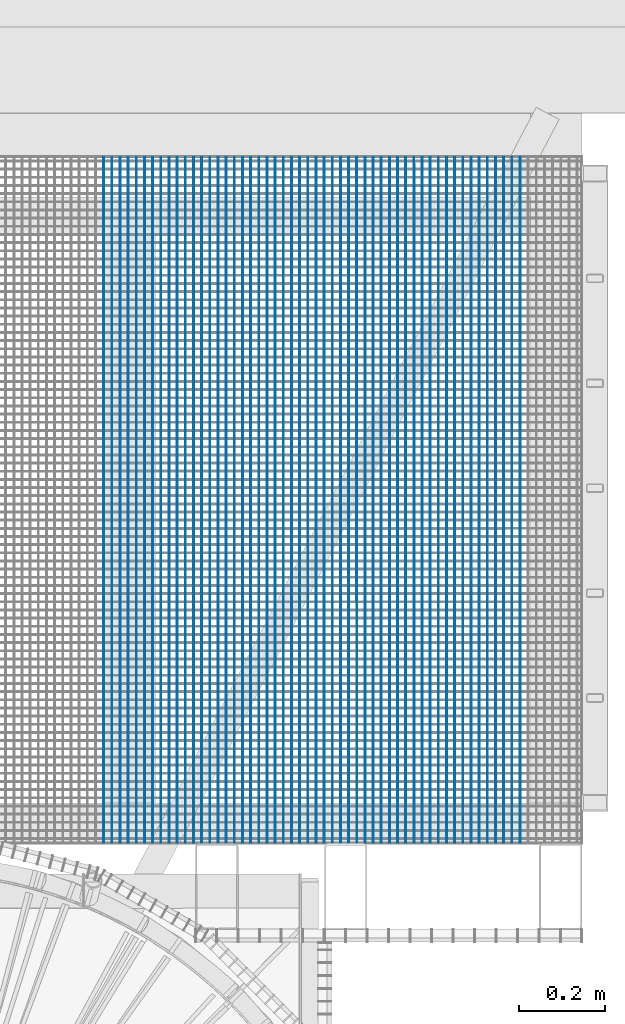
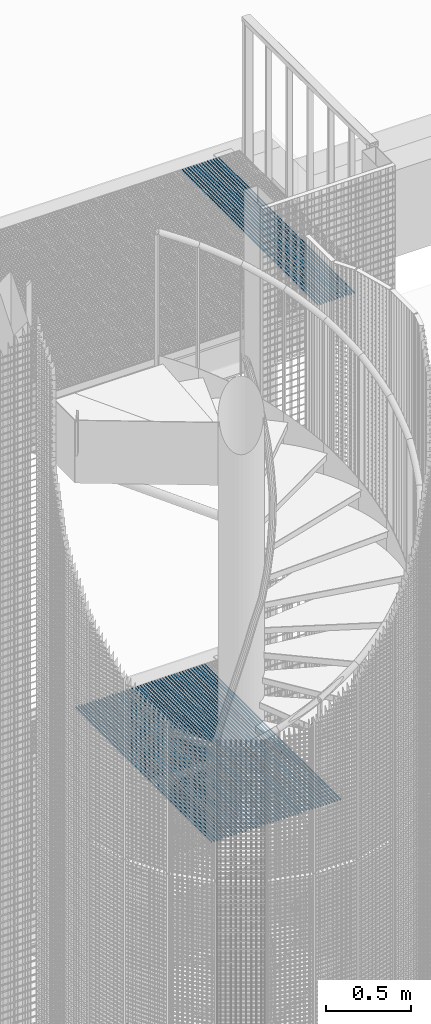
# One storey, part 87 of 1183: 61 beams, 2 elements without a shape of their own.
"""IFC2X3 building model written with IfcOpenShell, lengths in millimetres."""

from ifc_helpers import new_model, si_unit, frame, origin_with_axes, origin_2d_with_axis, place, context, subcontext, project, spatial, rectangle, extrude, material, type_object, element, aggregate, save


model = new_model("IFC2X3")

# Units and contexts
model_context = context("Model", 3, precision=1e-05, world=origin_with_axes())
body_context = subcontext(model_context, "Body", "Model", "MODEL_VIEW")
ifc_project = project(units=[si_unit("LENGTHUNIT", "METRE", prefix="MILLI"), si_unit("AREAUNIT", "SQUARE_METRE"), si_unit("VOLUMEUNIT", "CUBIC_METRE"), si_unit("MASSUNIT", "GRAM", prefix="KILO"), si_unit("TIMEUNIT", "SECOND"), si_unit("PLANEANGLEUNIT", "RADIAN"), si_unit("SOLIDANGLEUNIT", "STERADIAN"), si_unit("THERMODYNAMICTEMPERATUREUNIT", "DEGREE_CELSIUS"), si_unit("LUMINOUSINTENSITYUNIT", "LUMEN")], contexts=[model_context])

# Site, building, storey
site_placement = place(None, origin_with_axes())
site = spatial("IfcSite", under=ifc_project, at=site_placement, Name="Undefined", CompositionType="ELEMENT")
building_placement = place(site_placement, origin_with_axes())
building = spatial("IfcBuilding", under=site, at=building_placement, Name="Undefined", CompositionType="ELEMENT")
storey_placement = place(building_placement, origin_with_axes())
storey = spatial("IfcBuildingStorey", under=building, at=storey_placement, Name="Undefined", CompositionType="ELEMENT", Elevation=0.0)

# Assembly, beams
assembly_1_placement = place(storey_placement, origin_with_axes())
assembly_1 = element("IfcElementAssembly", 1, at=assembly_1_placement, inside=storey, Name="BORDURE", AssemblyPlace="NOTDEFINED", PredefinedType="NOTDEFINED")
ifc_material = material(Name="STEEL/S235JR")
beam_type = type_object("IfcBeamType", Name="PL2*10", PredefinedType="NOTDEFINED")
beam_1_placement = place(assembly_1_placement, frame((1159.07542472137, 1102.00802361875, 17285.0), z_axis=(0.0, 0.0, 1.0), x_axis=(-4.50599999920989e-06, 0.999999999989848, 0.0)))
beam_1 = element("IfcBeam", 2, at=beam_1_placement, type_object=beam_type, material=ifc_material, Name="ENTRETOISE", context=body_context, shape_type="SweptSolid", body=[
    extrude(rectangle(XDim=2.0, YDim=10.0, at=origin_2d_with_axis()), frame((1596.0000000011, -1.35186458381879e-18, -7.27595761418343e-12), z_axis=(-1.0, 0.0, 0.0), x_axis=(0.0, -1.0, 0.0)), (0.0, 0.0, 1.0), 1596.0),
])
beam_2_placement = place(assembly_1_placement, frame((1178.07542472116, 1102.00811713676, 17285.0), z_axis=(0.0, 0.0, 1.0), x_axis=(-4.50599999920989e-06, 0.999999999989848, 0.0)))
beam_2 = element("IfcBeam", 3, at=beam_2_placement, type_object=beam_type, material=ifc_material, Name="ENTRETOISE", context=body_context, shape_type="SweptSolid", body=[
    extrude(rectangle(XDim=2.0, YDim=10.0, at=origin_2d_with_axis()), frame((1596.0000000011, -1.35186458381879e-18, -7.27595761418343e-12), z_axis=(-1.0, 0.0, 0.0), x_axis=(0.0, -1.0, 0.0)), (0.0, 0.0, 1.0), 1596.0),
])
beam_3_placement = place(assembly_1_placement, frame((1197.07542472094, 1102.00821065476, 17285.0), z_axis=(0.0, 0.0, 1.0), x_axis=(-4.50599999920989e-06, 0.999999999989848, 0.0)))
beam_3 = element("IfcBeam", 4, at=beam_3_placement, type_object=beam_type, material=ifc_material, Name="ENTRETOISE", context=body_context, shape_type="SweptSolid", body=[
    extrude(rectangle(XDim=2.0, YDim=10.0, at=origin_2d_with_axis()), frame((1596.0000000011, -1.35186458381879e-18, -7.27595761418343e-12), z_axis=(-1.0, 0.0, 0.0), x_axis=(0.0, -1.0, 0.0)), (0.0, 0.0, 1.0), 1596.0),
])
beam_4_placement = place(assembly_1_placement, frame((1216.07542472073, 1102.00830417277, 17285.0), z_axis=(0.0, 0.0, 1.0), x_axis=(-4.50599999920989e-06, 0.999999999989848, 0.0)))
beam_4 = element("IfcBeam", 5, at=beam_4_placement, type_object=beam_type, material=ifc_material, Name="ENTRETOISE", context=body_context, shape_type="SweptSolid", body=[
    extrude(rectangle(XDim=2.0, YDim=10.0, at=origin_2d_with_axis()), frame((1596.0000000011, -1.35186458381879e-18, -7.27595761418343e-12), z_axis=(-1.0, 0.0, 0.0), x_axis=(0.0, -1.0, 0.0)), (0.0, 0.0, 1.0), 1596.0),
])
beam_5_placement = place(assembly_1_placement, frame((1235.07542472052, 1102.00839769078, 17285.0), z_axis=(0.0, 0.0, 1.0), x_axis=(-4.50599999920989e-06, 0.999999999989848, 0.0)))
beam_5 = element("IfcBeam", 6, at=beam_5_placement, type_object=beam_type, material=ifc_material, Name="ENTRETOISE", context=body_context, shape_type="SweptSolid", body=[
    extrude(rectangle(XDim=2.0, YDim=10.0, at=origin_2d_with_axis()), frame((1596.0000000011, -1.35186458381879e-18, -7.27595761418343e-12), z_axis=(-1.0, 0.0, 0.0), x_axis=(0.0, -1.0, 0.0)), (0.0, 0.0, 1.0), 1596.0),
])
beam_6_placement = place(assembly_1_placement, frame((1254.0754247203, 1102.00849120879, 17285.0), z_axis=(0.0, 0.0, 1.0), x_axis=(-4.50599999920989e-06, 0.999999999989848, 0.0)))
beam_6 = element("IfcBeam", 7, at=beam_6_placement, type_object=beam_type, material=ifc_material, Name="ENTRETOISE", context=body_context, shape_type="SweptSolid", body=[
    extrude(rectangle(XDim=2.0, YDim=10.0, at=origin_2d_with_axis()), frame((1596.0000000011, -1.35186458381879e-18, -7.27595761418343e-12), z_axis=(-1.0, 0.0, 0.0), x_axis=(0.0, -1.0, 0.0)), (0.0, 0.0, 1.0), 1596.0),
])
beam_7_placement = place(assembly_1_placement, frame((1273.07542472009, 1102.0085847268, 17285.0), z_axis=(0.0, 0.0, 1.0), x_axis=(-4.50599999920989e-06, 0.999999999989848, 0.0)))
beam_7 = element("IfcBeam", 8, at=beam_7_placement, type_object=beam_type, material=ifc_material, Name="ENTRETOISE", context=body_context, shape_type="SweptSolid", body=[
    extrude(rectangle(XDim=2.0, YDim=10.0, at=origin_2d_with_axis()), frame((1596.0000000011, -1.35186458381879e-18, -7.27595761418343e-12), z_axis=(-1.0, 0.0, 0.0), x_axis=(0.0, -1.0, 0.0)), (0.0, 0.0, 1.0), 1596.0),
])
beam_8_placement = place(assembly_1_placement, frame((1292.07542471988, 1102.00867824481, 17285.0), z_axis=(0.0, 0.0, 1.0), x_axis=(-4.50599999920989e-06, 0.999999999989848, 0.0)))
beam_8 = element("IfcBeam", 9, at=beam_8_placement, type_object=beam_type, material=ifc_material, Name="ENTRETOISE", context=body_context, shape_type="SweptSolid", body=[
    extrude(rectangle(XDim=2.0, YDim=10.0, at=origin_2d_with_axis()), frame((1596.0000000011, -1.35186458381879e-18, -7.27595761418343e-12), z_axis=(-1.0, 0.0, 0.0), x_axis=(0.0, -1.0, 0.0)), (0.0, 0.0, 1.0), 1596.0),
])
beam_9_placement = place(assembly_1_placement, frame((1311.07542471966, 1102.00877176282, 17285.0), z_axis=(0.0, 0.0, 1.0), x_axis=(-4.50599999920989e-06, 0.999999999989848, 0.0)))
beam_9 = element("IfcBeam", 10, at=beam_9_placement, type_object=beam_type, material=ifc_material, Name="ENTRETOISE", context=body_context, shape_type="SweptSolid", body=[
    extrude(rectangle(XDim=2.0, YDim=10.0, at=origin_2d_with_axis()), frame((1596.0000000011, -1.35186458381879e-18, -7.27595761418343e-12), z_axis=(-1.0, 0.0, 0.0), x_axis=(0.0, -1.0, 0.0)), (0.0, 0.0, 1.0), 1596.0),
])
beam_10_placement = place(assembly_1_placement, frame((1330.07542471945, 1102.00886528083, 17285.0), z_axis=(0.0, 0.0, 1.0), x_axis=(-4.50599999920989e-06, 0.999999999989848, 0.0)))
beam_10 = element("IfcBeam", 11, at=beam_10_placement, type_object=beam_type, material=ifc_material, Name="ENTRETOISE", context=body_context, shape_type="SweptSolid", body=[
    extrude(rectangle(XDim=2.0, YDim=10.0, at=origin_2d_with_axis()), frame((1596.0000000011, -1.35186458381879e-18, -7.27595761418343e-12), z_axis=(-1.0, 0.0, 0.0), x_axis=(0.0, -1.0, 0.0)), (0.0, 0.0, 1.0), 1596.0),
])
beam_11_placement = place(assembly_1_placement, frame((1349.07542471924, 1102.00895879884, 17285.0), z_axis=(0.0, 0.0, 1.0), x_axis=(-4.50599999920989e-06, 0.999999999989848, 0.0)))
beam_11 = element("IfcBeam", 12, at=beam_11_placement, type_object=beam_type, material=ifc_material, Name="ENTRETOISE", context=body_context, shape_type="SweptSolid", body=[
    extrude(rectangle(XDim=2.0, YDim=10.0, at=origin_2d_with_axis()), frame((1596.0000000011, -1.35186458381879e-18, -7.27595761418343e-12), z_axis=(-1.0, 0.0, 0.0), x_axis=(0.0, -1.0, 0.0)), (0.0, 0.0, 1.0), 1596.0),
])
beam_12_placement = place(assembly_1_placement, frame((1368.07542471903, 1102.00905231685, 17285.0), z_axis=(0.0, 0.0, 1.0), x_axis=(-4.50599999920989e-06, 0.999999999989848, 0.0)))
beam_12 = element("IfcBeam", 13, at=beam_12_placement, type_object=beam_type, material=ifc_material, Name="ENTRETOISE", context=body_context, shape_type="SweptSolid", body=[
    extrude(rectangle(XDim=2.0, YDim=10.0, at=origin_2d_with_axis()), frame((1596.0000000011, -1.35186458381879e-18, -7.27595761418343e-12), z_axis=(-1.0, 0.0, 0.0), x_axis=(0.0, -1.0, 0.0)), (0.0, 0.0, 1.0), 1596.0),
])
beam_13_placement = place(assembly_1_placement, frame((1387.07542471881, 1102.00914583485, 17285.0), z_axis=(0.0, 0.0, 1.0), x_axis=(-4.50599999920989e-06, 0.999999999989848, 0.0)))
beam_13 = element("IfcBeam", 14, at=beam_13_placement, type_object=beam_type, material=ifc_material, Name="ENTRETOISE", context=body_context, shape_type="SweptSolid", body=[
    extrude(rectangle(XDim=2.0, YDim=10.0, at=origin_2d_with_axis()), frame((1596.0000000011, -1.35186458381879e-18, -7.27595761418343e-12), z_axis=(-1.0, 0.0, 0.0), x_axis=(0.0, -1.0, 0.0)), (0.0, 0.0, 1.0), 1596.0),
])
beam_14_placement = place(assembly_1_placement, frame((1406.0754247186, 1102.00923935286, 17285.0), z_axis=(0.0, 0.0, 1.0), x_axis=(-4.50599999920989e-06, 0.999999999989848, 0.0)))
beam_14 = element("IfcBeam", 15, at=beam_14_placement, type_object=beam_type, material=ifc_material, Name="ENTRETOISE", context=body_context, shape_type="SweptSolid", body=[
    extrude(rectangle(XDim=2.0, YDim=10.0, at=origin_2d_with_axis()), frame((1596.0000000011, -1.35186458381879e-18, -7.27595761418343e-12), z_axis=(-1.0, 0.0, 0.0), x_axis=(0.0, -1.0, 0.0)), (0.0, 0.0, 1.0), 1596.0),
])
aggregate(assembly_1, [beam_1, beam_2, beam_3, beam_4, beam_5, beam_6, beam_7, beam_8, beam_9, beam_10, beam_11, beam_12, beam_13, beam_14])

assembly_2_placement = place(storey_placement, origin_with_axes())
assembly_2 = element("IfcElementAssembly", 16, at=assembly_2_placement, inside=storey, Name="BORDURE", AssemblyPlace="NOTDEFINED", PredefinedType="NOTDEFINED")
beam_15_placement = place(assembly_2_placement, frame((437.075424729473, 1102.00446993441, 13685.0), z_axis=(0.0, 0.0, 1.0), x_axis=(-4.50599999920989e-06, 0.999999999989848, 0.0)))
beam_15 = element("IfcBeam", 17, at=beam_15_placement, type_object=beam_type, material=ifc_material, Name="ENTRETOISE", context=body_context, shape_type="SweptSolid", body=[
    extrude(rectangle(XDim=2.0, YDim=10.0, at=origin_2d_with_axis()), frame((1596.0000000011, -1.35186458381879e-18, -7.27595761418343e-12), z_axis=(-1.0, 0.0, 0.0), x_axis=(0.0, -1.0, 0.0)), (0.0, 0.0, 1.0), 1596.0),
])
beam_16_placement = place(assembly_2_placement, frame((456.075424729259, 1102.00456345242, 13685.0), z_axis=(0.0, 0.0, 1.0), x_axis=(-4.50599999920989e-06, 0.999999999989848, 0.0)))
beam_16 = element("IfcBeam", 18, at=beam_16_placement, type_object=beam_type, material=ifc_material, Name="ENTRETOISE", context=body_context, shape_type="SweptSolid", body=[
    extrude(rectangle(XDim=2.0, YDim=10.0, at=origin_2d_with_axis()), frame((1596.0000000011, -1.35186458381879e-18, -7.27595761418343e-12), z_axis=(-1.0, 0.0, 0.0), x_axis=(0.0, -1.0, 0.0)), (0.0, 0.0, 1.0), 1596.0),
])
beam_17_placement = place(assembly_2_placement, frame((475.075424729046, 1102.00465697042, 13685.0), z_axis=(0.0, 0.0, 1.0), x_axis=(-4.50599999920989e-06, 0.999999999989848, 0.0)))
beam_17 = element("IfcBeam", 19, at=beam_17_placement, type_object=beam_type, material=ifc_material, Name="ENTRETOISE", context=body_context, shape_type="SweptSolid", body=[
    extrude(rectangle(XDim=2.0, YDim=10.0, at=origin_2d_with_axis()), frame((1596.0000000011, -1.35186458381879e-18, -7.27595761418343e-12), z_axis=(-1.0, 0.0, 0.0), x_axis=(0.0, -1.0, 0.0)), (0.0, 0.0, 1.0), 1596.0),
])
beam_18_placement = place(assembly_2_placement, frame((494.075424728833, 1102.00475048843, 13685.0), z_axis=(0.0, 0.0, 1.0), x_axis=(-4.50599999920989e-06, 0.999999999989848, 0.0)))
beam_18 = element("IfcBeam", 20, at=beam_18_placement, type_object=beam_type, material=ifc_material, Name="ENTRETOISE", context=body_context, shape_type="SweptSolid", body=[
    extrude(rectangle(XDim=2.0, YDim=10.0, at=origin_2d_with_axis()), frame((1596.0000000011, -1.35186458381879e-18, -7.27595761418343e-12), z_axis=(-1.0, 0.0, 0.0), x_axis=(0.0, -1.0, 0.0)), (0.0, 0.0, 1.0), 1596.0),
])
beam_19_placement = place(assembly_2_placement, frame((513.07542472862, 1102.00484400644, 13685.0), z_axis=(0.0, 0.0, 1.0), x_axis=(-4.50599999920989e-06, 0.999999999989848, 0.0)))
beam_19 = element("IfcBeam", 21, at=beam_19_placement, type_object=beam_type, material=ifc_material, Name="ENTRETOISE", context=body_context, shape_type="SweptSolid", body=[
    extrude(rectangle(XDim=2.0, YDim=10.0, at=origin_2d_with_axis()), frame((1596.0000000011, -1.35186458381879e-18, -7.27595761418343e-12), z_axis=(-1.0, 0.0, 0.0), x_axis=(0.0, -1.0, 0.0)), (0.0, 0.0, 1.0), 1596.0),
])
beam_20_placement = place(assembly_2_placement, frame((532.075424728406, 1102.00493752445, 13685.0), z_axis=(0.0, 0.0, 1.0), x_axis=(-4.50599999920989e-06, 0.999999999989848, 0.0)))
beam_20 = element("IfcBeam", 22, at=beam_20_placement, type_object=beam_type, material=ifc_material, Name="ENTRETOISE", context=body_context, shape_type="SweptSolid", body=[
    extrude(rectangle(XDim=2.0, YDim=10.0, at=origin_2d_with_axis()), frame((1596.0000000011, -1.35186458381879e-18, -7.27595761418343e-12), z_axis=(-1.0, 0.0, 0.0), x_axis=(0.0, -1.0, 0.0)), (0.0, 0.0, 1.0), 1596.0),
])
beam_21_placement = place(assembly_2_placement, frame((551.075424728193, 1102.00503104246, 13685.0), z_axis=(0.0, 0.0, 1.0), x_axis=(-4.50599999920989e-06, 0.999999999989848, 0.0)))
beam_21 = element("IfcBeam", 23, at=beam_21_placement, type_object=beam_type, material=ifc_material, Name="ENTRETOISE", context=body_context, shape_type="SweptSolid", body=[
    extrude(rectangle(XDim=2.0, YDim=10.0, at=origin_2d_with_axis()), frame((1596.0000000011, -1.35186458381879e-18, -7.27595761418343e-12), z_axis=(-1.0, 0.0, 0.0), x_axis=(0.0, -1.0, 0.0)), (0.0, 0.0, 1.0), 1596.0),
])
beam_22_placement = place(assembly_2_placement, frame((570.075424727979, 1102.00512456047, 13685.0), z_axis=(0.0, 0.0, 1.0), x_axis=(-4.50599999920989e-06, 0.999999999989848, 0.0)))
beam_22 = element("IfcBeam", 24, at=beam_22_placement, type_object=beam_type, material=ifc_material, Name="ENTRETOISE", context=body_context, shape_type="SweptSolid", body=[
    extrude(rectangle(XDim=2.0, YDim=10.0, at=origin_2d_with_axis()), frame((1596.0000000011, -1.35186458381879e-18, -7.27595761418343e-12), z_axis=(-1.0, 0.0, 0.0), x_axis=(0.0, -1.0, 0.0)), (0.0, 0.0, 1.0), 1596.0),
])
beam_23_placement = place(assembly_2_placement, frame((589.075424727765, 1102.00521807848, 13685.0), z_axis=(0.0, 0.0, 1.0), x_axis=(-4.50599999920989e-06, 0.999999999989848, 0.0)))
beam_23 = element("IfcBeam", 25, at=beam_23_placement, type_object=beam_type, material=ifc_material, Name="ENTRETOISE", context=body_context, shape_type="SweptSolid", body=[
    extrude(rectangle(XDim=2.0, YDim=10.0, at=origin_2d_with_axis()), frame((1596.0000000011, -1.35186458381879e-18, -7.27595761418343e-12), z_axis=(-1.0, 0.0, 0.0), x_axis=(0.0, -1.0, 0.0)), (0.0, 0.0, 1.0), 1596.0),
])
beam_24_placement = place(assembly_2_placement, frame((608.075424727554, 1102.00531159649, 13685.0), z_axis=(0.0, 0.0, 1.0), x_axis=(-4.50599999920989e-06, 0.999999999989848, 0.0)))
beam_24 = element("IfcBeam", 26, at=beam_24_placement, type_object=beam_type, material=ifc_material, Name="ENTRETOISE", context=body_context, shape_type="SweptSolid", body=[
    extrude(rectangle(XDim=2.0, YDim=10.0, at=origin_2d_with_axis()), frame((1596.0000000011, -1.35186458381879e-18, -7.27595761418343e-12), z_axis=(-1.0, 0.0, 0.0), x_axis=(0.0, -1.0, 0.0)), (0.0, 0.0, 1.0), 1596.0),
])
beam_25_placement = place(assembly_2_placement, frame((627.07542472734, 1102.0054051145, 13685.0), z_axis=(0.0, 0.0, 1.0), x_axis=(-4.50599999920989e-06, 0.999999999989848, 0.0)))
beam_25 = element("IfcBeam", 27, at=beam_25_placement, type_object=beam_type, material=ifc_material, Name="ENTRETOISE", context=body_context, shape_type="SweptSolid", body=[
    extrude(rectangle(XDim=2.0, YDim=10.0, at=origin_2d_with_axis()), frame((1596.0000000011, -1.35186458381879e-18, -7.27595761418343e-12), z_axis=(-1.0, 0.0, 0.0), x_axis=(0.0, -1.0, 0.0)), (0.0, 0.0, 1.0), 1596.0),
])
beam_26_placement = place(assembly_2_placement, frame((646.075424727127, 1102.0054986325, 13685.0), z_axis=(0.0, 0.0, 1.0), x_axis=(-4.50599999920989e-06, 0.999999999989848, 0.0)))
beam_26 = element("IfcBeam", 28, at=beam_26_placement, type_object=beam_type, material=ifc_material, Name="ENTRETOISE", context=body_context, shape_type="SweptSolid", body=[
    extrude(rectangle(XDim=2.0, YDim=10.0, at=origin_2d_with_axis()), frame((1596.0000000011, -1.35186458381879e-18, -7.27595761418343e-12), z_axis=(-1.0, 0.0, 0.0), x_axis=(0.0, -1.0, 0.0)), (0.0, 0.0, 1.0), 1596.0),
])
beam_27_placement = place(assembly_2_placement, frame((665.075424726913, 1102.00559215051, 13685.0), z_axis=(0.0, 0.0, 1.0), x_axis=(-4.50599999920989e-06, 0.999999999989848, 0.0)))
beam_27 = element("IfcBeam", 29, at=beam_27_placement, type_object=beam_type, material=ifc_material, Name="ENTRETOISE", context=body_context, shape_type="SweptSolid", body=[
    extrude(rectangle(XDim=2.0, YDim=10.0, at=origin_2d_with_axis()), frame((1596.0000000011, -1.35186458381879e-18, -7.27595761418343e-12), z_axis=(-1.0, 0.0, 0.0), x_axis=(0.0, -1.0, 0.0)), (0.0, 0.0, 1.0), 1596.0),
])
beam_28_placement = place(assembly_2_placement, frame((684.0754247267, 1102.00568566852, 13685.0), z_axis=(0.0, 0.0, 1.0), x_axis=(-4.50599999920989e-06, 0.999999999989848, 0.0)))
beam_28 = element("IfcBeam", 30, at=beam_28_placement, type_object=beam_type, material=ifc_material, Name="ENTRETOISE", context=body_context, shape_type="SweptSolid", body=[
    extrude(rectangle(XDim=2.0, YDim=10.0, at=origin_2d_with_axis()), frame((1596.0000000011, -1.35186458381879e-18, -7.27595761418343e-12), z_axis=(-1.0, 0.0, 0.0), x_axis=(0.0, -1.0, 0.0)), (0.0, 0.0, 1.0), 1596.0),
])
beam_29_placement = place(assembly_2_placement, frame((703.075424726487, 1102.00577918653, 13685.0), z_axis=(0.0, 0.0, 1.0), x_axis=(-4.50599999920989e-06, 0.999999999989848, 0.0)))
beam_29 = element("IfcBeam", 31, at=beam_29_placement, type_object=beam_type, material=ifc_material, Name="ENTRETOISE", context=body_context, shape_type="SweptSolid", body=[
    extrude(rectangle(XDim=2.0, YDim=10.0, at=origin_2d_with_axis()), frame((1596.0000000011, -1.35186458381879e-18, -7.27595761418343e-12), z_axis=(-1.0, 0.0, 0.0), x_axis=(0.0, -1.0, 0.0)), (0.0, 0.0, 1.0), 1596.0),
])
beam_30_placement = place(assembly_2_placement, frame((722.075424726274, 1102.00587270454, 13685.0), z_axis=(0.0, 0.0, 1.0), x_axis=(-4.50599999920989e-06, 0.999999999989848, 0.0)))
beam_30 = element("IfcBeam", 32, at=beam_30_placement, type_object=beam_type, material=ifc_material, Name="ENTRETOISE", context=body_context, shape_type="SweptSolid", body=[
    extrude(rectangle(XDim=2.0, YDim=10.0, at=origin_2d_with_axis()), frame((1596.0000000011, -1.35186458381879e-18, -7.27595761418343e-12), z_axis=(-1.0, 0.0, 0.0), x_axis=(0.0, -1.0, 0.0)), (0.0, 0.0, 1.0), 1596.0),
])
beam_31_placement = place(assembly_2_placement, frame((741.07542472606, 1102.00596622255, 13685.0), z_axis=(0.0, 0.0, 1.0), x_axis=(-4.50599999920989e-06, 0.999999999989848, 0.0)))
beam_31 = element("IfcBeam", 33, at=beam_31_placement, type_object=beam_type, material=ifc_material, Name="ENTRETOISE", context=body_context, shape_type="SweptSolid", body=[
    extrude(rectangle(XDim=2.0, YDim=10.0, at=origin_2d_with_axis()), frame((1596.0000000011, -1.35186458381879e-18, -7.27595761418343e-12), z_axis=(-1.0, 0.0, 0.0), x_axis=(0.0, -1.0, 0.0)), (0.0, 0.0, 1.0), 1596.0),
])
beam_32_placement = place(assembly_2_placement, frame((760.075424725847, 1102.00605974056, 13685.0), z_axis=(0.0, 0.0, 1.0), x_axis=(-4.50599999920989e-06, 0.999999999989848, 0.0)))
beam_32 = element("IfcBeam", 34, at=beam_32_placement, type_object=beam_type, material=ifc_material, Name="ENTRETOISE", context=body_context, shape_type="SweptSolid", body=[
    extrude(rectangle(XDim=2.0, YDim=10.0, at=origin_2d_with_axis()), frame((1596.0000000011, -1.35186458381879e-18, -7.27595761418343e-12), z_axis=(-1.0, 0.0, 0.0), x_axis=(0.0, -1.0, 0.0)), (0.0, 0.0, 1.0), 1596.0),
])
beam_33_placement = place(assembly_2_placement, frame((779.075424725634, 1102.00615325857, 13685.0), z_axis=(0.0, 0.0, 1.0), x_axis=(-4.50599999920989e-06, 0.999999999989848, 0.0)))
beam_33 = element("IfcBeam", 35, at=beam_33_placement, type_object=beam_type, material=ifc_material, Name="ENTRETOISE", context=body_context, shape_type="SweptSolid", body=[
    extrude(rectangle(XDim=2.0, YDim=10.0, at=origin_2d_with_axis()), frame((1596.0000000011, -1.35186458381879e-18, -7.27595761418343e-12), z_axis=(-1.0, 0.0, 0.0), x_axis=(0.0, -1.0, 0.0)), (0.0, 0.0, 1.0), 1596.0),
])
beam_34_placement = place(assembly_2_placement, frame((798.075424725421, 1102.00624677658, 13685.0), z_axis=(0.0, 0.0, 1.0), x_axis=(-4.50599999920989e-06, 0.999999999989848, 0.0)))
beam_34 = element("IfcBeam", 36, at=beam_34_placement, type_object=beam_type, material=ifc_material, Name="ENTRETOISE", context=body_context, shape_type="SweptSolid", body=[
    extrude(rectangle(XDim=2.0, YDim=10.0, at=origin_2d_with_axis()), frame((1596.0000000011, -1.35186458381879e-18, -7.27595761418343e-12), z_axis=(-1.0, 0.0, 0.0), x_axis=(0.0, -1.0, 0.0)), (0.0, 0.0, 1.0), 1596.0),
])
beam_35_placement = place(assembly_2_placement, frame((817.075424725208, 1102.00634029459, 13685.0), z_axis=(0.0, 0.0, 1.0), x_axis=(-4.50599999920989e-06, 0.999999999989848, 0.0)))
beam_35 = element("IfcBeam", 37, at=beam_35_placement, type_object=beam_type, material=ifc_material, Name="ENTRETOISE", context=body_context, shape_type="SweptSolid", body=[
    extrude(rectangle(XDim=2.0, YDim=10.0, at=origin_2d_with_axis()), frame((1596.0000000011, -1.35186458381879e-18, -7.27595761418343e-12), z_axis=(-1.0, 0.0, 0.0), x_axis=(0.0, -1.0, 0.0)), (0.0, 0.0, 1.0), 1596.0),
])
beam_36_placement = place(assembly_2_placement, frame((836.075424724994, 1102.00643381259, 13685.0), z_axis=(0.0, 0.0, 1.0), x_axis=(-4.50599999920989e-06, 0.999999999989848, 0.0)))
beam_36 = element("IfcBeam", 38, at=beam_36_placement, type_object=beam_type, material=ifc_material, Name="ENTRETOISE", context=body_context, shape_type="SweptSolid", body=[
    extrude(rectangle(XDim=2.0, YDim=10.0, at=origin_2d_with_axis()), frame((1596.0000000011, -1.35186458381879e-18, -7.27595761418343e-12), z_axis=(-1.0, 0.0, 0.0), x_axis=(0.0, -1.0, 0.0)), (0.0, 0.0, 1.0), 1596.0),
])
beam_37_placement = place(assembly_2_placement, frame((855.075424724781, 1102.0065273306, 13685.0), z_axis=(0.0, 0.0, 1.0), x_axis=(-4.50599999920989e-06, 0.999999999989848, 0.0)))
beam_37 = element("IfcBeam", 39, at=beam_37_placement, type_object=beam_type, material=ifc_material, Name="ENTRETOISE", context=body_context, shape_type="SweptSolid", body=[
    extrude(rectangle(XDim=2.0, YDim=10.0, at=origin_2d_with_axis()), frame((1596.0000000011, -1.35186458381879e-18, -7.27595761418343e-12), z_axis=(-1.0, 0.0, 0.0), x_axis=(0.0, -1.0, 0.0)), (0.0, 0.0, 1.0), 1596.0),
])
beam_38_placement = place(assembly_2_placement, frame((874.075424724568, 1102.00662084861, 13685.0), z_axis=(0.0, 0.0, 1.0), x_axis=(-4.50599999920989e-06, 0.999999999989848, 0.0)))
beam_38 = element("IfcBeam", 40, at=beam_38_placement, type_object=beam_type, material=ifc_material, Name="ENTRETOISE", context=body_context, shape_type="SweptSolid", body=[
    extrude(rectangle(XDim=2.0, YDim=10.0, at=origin_2d_with_axis()), frame((1596.0000000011, -1.35186458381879e-18, -7.27595761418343e-12), z_axis=(-1.0, 0.0, 0.0), x_axis=(0.0, -1.0, 0.0)), (0.0, 0.0, 1.0), 1596.0),
])
beam_39_placement = place(assembly_2_placement, frame((893.075424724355, 1102.00671436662, 13685.0), z_axis=(0.0, 0.0, 1.0), x_axis=(-4.50599999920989e-06, 0.999999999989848, 0.0)))
beam_39 = element("IfcBeam", 41, at=beam_39_placement, type_object=beam_type, material=ifc_material, Name="ENTRETOISE", context=body_context, shape_type="SweptSolid", body=[
    extrude(rectangle(XDim=2.0, YDim=10.0, at=origin_2d_with_axis()), frame((1596.0000000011, -1.35186458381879e-18, -7.27595761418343e-12), z_axis=(-1.0, 0.0, 0.0), x_axis=(0.0, -1.0, 0.0)), (0.0, 0.0, 1.0), 1596.0),
])
beam_40_placement = place(assembly_2_placement, frame((912.075424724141, 1102.00680788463, 13685.0), z_axis=(0.0, 0.0, 1.0), x_axis=(-4.50599999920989e-06, 0.999999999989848, 0.0)))
beam_40 = element("IfcBeam", 42, at=beam_40_placement, type_object=beam_type, material=ifc_material, Name="ENTRETOISE", context=body_context, shape_type="SweptSolid", body=[
    extrude(rectangle(XDim=2.0, YDim=10.0, at=origin_2d_with_axis()), frame((1596.0000000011, -1.35186458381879e-18, -7.27595761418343e-12), z_axis=(-1.0, 0.0, 0.0), x_axis=(0.0, -1.0, 0.0)), (0.0, 0.0, 1.0), 1596.0),
])
beam_41_placement = place(assembly_2_placement, frame((931.075424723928, 1102.00690140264, 13685.0), z_axis=(0.0, 0.0, 1.0), x_axis=(-4.50599999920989e-06, 0.999999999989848, 0.0)))
beam_41 = element("IfcBeam", 43, at=beam_41_placement, type_object=beam_type, material=ifc_material, Name="ENTRETOISE", context=body_context, shape_type="SweptSolid", body=[
    extrude(rectangle(XDim=2.0, YDim=10.0, at=origin_2d_with_axis()), frame((1596.0000000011, -1.35186458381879e-18, -7.27595761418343e-12), z_axis=(-1.0, 0.0, 0.0), x_axis=(0.0, -1.0, 0.0)), (0.0, 0.0, 1.0), 1596.0),
])
beam_42_placement = place(assembly_2_placement, frame((950.075424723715, 1102.00699492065, 13685.0), z_axis=(0.0, 0.0, 1.0), x_axis=(-4.50599999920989e-06, 0.999999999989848, 0.0)))
beam_42 = element("IfcBeam", 44, at=beam_42_placement, type_object=beam_type, material=ifc_material, Name="ENTRETOISE", context=body_context, shape_type="SweptSolid", body=[
    extrude(rectangle(XDim=2.0, YDim=10.0, at=origin_2d_with_axis()), frame((1596.0000000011, -1.35186458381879e-18, -7.27595761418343e-12), z_axis=(-1.0, 0.0, 0.0), x_axis=(0.0, -1.0, 0.0)), (0.0, 0.0, 1.0), 1596.0),
])
beam_43_placement = place(assembly_2_placement, frame((969.075424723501, 1102.00708843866, 13685.0), z_axis=(0.0, 0.0, 1.0), x_axis=(-4.50599999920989e-06, 0.999999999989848, 0.0)))
beam_43 = element("IfcBeam", 45, at=beam_43_placement, type_object=beam_type, material=ifc_material, Name="ENTRETOISE", context=body_context, shape_type="SweptSolid", body=[
    extrude(rectangle(XDim=2.0, YDim=10.0, at=origin_2d_with_axis()), frame((1596.0000000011, -1.35186458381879e-18, -7.27595761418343e-12), z_axis=(-1.0, 0.0, 0.0), x_axis=(0.0, -1.0, 0.0)), (0.0, 0.0, 1.0), 1596.0),
])
beam_44_placement = place(assembly_2_placement, frame((988.075424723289, 1102.00718195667, 13685.0), z_axis=(0.0, 0.0, 1.0), x_axis=(-4.50599999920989e-06, 0.999999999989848, 0.0)))
beam_44 = element("IfcBeam", 46, at=beam_44_placement, type_object=beam_type, material=ifc_material, Name="ENTRETOISE", context=body_context, shape_type="SweptSolid", body=[
    extrude(rectangle(XDim=2.0, YDim=10.0, at=origin_2d_with_axis()), frame((1596.0000000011, -1.35186458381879e-18, -7.27595761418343e-12), z_axis=(-1.0, 0.0, 0.0), x_axis=(0.0, -1.0, 0.0)), (0.0, 0.0, 1.0), 1596.0),
])
beam_45_placement = place(assembly_2_placement, frame((1007.07542472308, 1102.00727547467, 13685.0), z_axis=(0.0, 0.0, 1.0), x_axis=(-4.50599999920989e-06, 0.999999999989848, 0.0)))
beam_45 = element("IfcBeam", 47, at=beam_45_placement, type_object=beam_type, material=ifc_material, Name="ENTRETOISE", context=body_context, shape_type="SweptSolid", body=[
    extrude(rectangle(XDim=2.0, YDim=10.0, at=origin_2d_with_axis()), frame((1596.0000000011, -1.35186458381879e-18, -7.27595761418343e-12), z_axis=(-1.0, 0.0, 0.0), x_axis=(0.0, -1.0, 0.0)), (0.0, 0.0, 1.0), 1596.0),
])
beam_46_placement = place(assembly_2_placement, frame((1026.07542472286, 1102.00736899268, 13685.0), z_axis=(0.0, 0.0, 1.0), x_axis=(-4.50599999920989e-06, 0.999999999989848, 0.0)))
beam_46 = element("IfcBeam", 48, at=beam_46_placement, type_object=beam_type, material=ifc_material, Name="ENTRETOISE", context=body_context, shape_type="SweptSolid", body=[
    extrude(rectangle(XDim=2.0, YDim=10.0, at=origin_2d_with_axis()), frame((1596.0000000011, -1.35186458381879e-18, -7.27595761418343e-12), z_axis=(-1.0, 0.0, 0.0), x_axis=(0.0, -1.0, 0.0)), (0.0, 0.0, 1.0), 1596.0),
])
beam_47_placement = place(assembly_2_placement, frame((1045.07542472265, 1102.00746251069, 13685.0), z_axis=(0.0, 0.0, 1.0), x_axis=(-4.50599999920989e-06, 0.999999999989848, 0.0)))
beam_47 = element("IfcBeam", 49, at=beam_47_placement, type_object=beam_type, material=ifc_material, Name="ENTRETOISE", context=body_context, shape_type="SweptSolid", body=[
    extrude(rectangle(XDim=2.0, YDim=10.0, at=origin_2d_with_axis()), frame((1596.0000000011, -1.35186458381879e-18, -7.27595761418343e-12), z_axis=(-1.0, 0.0, 0.0), x_axis=(0.0, -1.0, 0.0)), (0.0, 0.0, 1.0), 1596.0),
])
beam_48_placement = place(assembly_2_placement, frame((1064.07542472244, 1102.0075560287, 13685.0), z_axis=(0.0, 0.0, 1.0), x_axis=(-4.50599999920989e-06, 0.999999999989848, 0.0)))
beam_48 = element("IfcBeam", 50, at=beam_48_placement, type_object=beam_type, material=ifc_material, Name="ENTRETOISE", context=body_context, shape_type="SweptSolid", body=[
    extrude(rectangle(XDim=2.0, YDim=10.0, at=origin_2d_with_axis()), frame((1596.0000000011, -1.35186458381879e-18, -7.27595761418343e-12), z_axis=(-1.0, 0.0, 0.0), x_axis=(0.0, -1.0, 0.0)), (0.0, 0.0, 1.0), 1596.0),
])
beam_49_placement = place(assembly_2_placement, frame((1083.07542472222, 1102.00764954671, 13685.0), z_axis=(0.0, 0.0, 1.0), x_axis=(-4.50599999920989e-06, 0.999999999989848, 0.0)))
beam_49 = element("IfcBeam", 51, at=beam_49_placement, type_object=beam_type, material=ifc_material, Name="ENTRETOISE", context=body_context, shape_type="SweptSolid", body=[
    extrude(rectangle(XDim=2.0, YDim=10.0, at=origin_2d_with_axis()), frame((1596.0000000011, -1.35186458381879e-18, -7.27595761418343e-12), z_axis=(-1.0, 0.0, 0.0), x_axis=(0.0, -1.0, 0.0)), (0.0, 0.0, 1.0), 1596.0),
])
beam_50_placement = place(assembly_2_placement, frame((1102.07542472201, 1102.00774306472, 13685.0), z_axis=(0.0, 0.0, 1.0), x_axis=(-4.50599999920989e-06, 0.999999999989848, 0.0)))
beam_50 = element("IfcBeam", 52, at=beam_50_placement, type_object=beam_type, material=ifc_material, Name="ENTRETOISE", context=body_context, shape_type="SweptSolid", body=[
    extrude(rectangle(XDim=2.0, YDim=10.0, at=origin_2d_with_axis()), frame((1596.0000000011, -1.35186458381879e-18, -7.27595761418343e-12), z_axis=(-1.0, 0.0, 0.0), x_axis=(0.0, -1.0, 0.0)), (0.0, 0.0, 1.0), 1596.0),
])
beam_51_placement = place(assembly_2_placement, frame((1121.0754247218, 1102.00783658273, 13685.0), z_axis=(0.0, 0.0, 1.0), x_axis=(-4.50599999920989e-06, 0.999999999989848, 0.0)))
beam_51 = element("IfcBeam", 53, at=beam_51_placement, type_object=beam_type, material=ifc_material, Name="ENTRETOISE", context=body_context, shape_type="SweptSolid", body=[
    extrude(rectangle(XDim=2.0, YDim=10.0, at=origin_2d_with_axis()), frame((1596.0000000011, -1.35186458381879e-18, -7.27595761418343e-12), z_axis=(-1.0, 0.0, 0.0), x_axis=(0.0, -1.0, 0.0)), (0.0, 0.0, 1.0), 1596.0),
])
beam_52_placement = place(assembly_2_placement, frame((1140.07542472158, 1102.00793010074, 13685.0), z_axis=(0.0, 0.0, 1.0), x_axis=(-4.50599999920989e-06, 0.999999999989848, 0.0)))
beam_52 = element("IfcBeam", 54, at=beam_52_placement, type_object=beam_type, material=ifc_material, Name="ENTRETOISE", context=body_context, shape_type="SweptSolid", body=[
    extrude(rectangle(XDim=2.0, YDim=10.0, at=origin_2d_with_axis()), frame((1596.0000000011, -1.35186458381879e-18, -7.27595761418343e-12), z_axis=(-1.0, 0.0, 0.0), x_axis=(0.0, -1.0, 0.0)), (0.0, 0.0, 1.0), 1596.0),
])
beam_53_placement = place(assembly_2_placement, frame((1159.07542472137, 1102.00802361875, 13685.0), z_axis=(0.0, 0.0, 1.0), x_axis=(-4.50599999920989e-06, 0.999999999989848, 0.0)))
beam_53 = element("IfcBeam", 55, at=beam_53_placement, type_object=beam_type, material=ifc_material, Name="ENTRETOISE", context=body_context, shape_type="SweptSolid", body=[
    extrude(rectangle(XDim=2.0, YDim=10.0, at=origin_2d_with_axis()), frame((1596.0000000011, -1.35186458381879e-18, -7.27595761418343e-12), z_axis=(-1.0, 0.0, 0.0), x_axis=(0.0, -1.0, 0.0)), (0.0, 0.0, 1.0), 1596.0),
])
beam_54_placement = place(assembly_2_placement, frame((1178.07542472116, 1102.00811713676, 13685.0), z_axis=(0.0, 0.0, 1.0), x_axis=(-4.50599999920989e-06, 0.999999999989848, 0.0)))
beam_54 = element("IfcBeam", 56, at=beam_54_placement, type_object=beam_type, material=ifc_material, Name="ENTRETOISE", context=body_context, shape_type="SweptSolid", body=[
    extrude(rectangle(XDim=2.0, YDim=10.0, at=origin_2d_with_axis()), frame((1596.0000000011, -1.35186458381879e-18, -7.27595761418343e-12), z_axis=(-1.0, 0.0, 0.0), x_axis=(0.0, -1.0, 0.0)), (0.0, 0.0, 1.0), 1596.0),
])
beam_55_placement = place(assembly_2_placement, frame((1197.07542472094, 1102.00821065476, 13685.0), z_axis=(0.0, 0.0, 1.0), x_axis=(-4.50599999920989e-06, 0.999999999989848, 0.0)))
beam_55 = element("IfcBeam", 57, at=beam_55_placement, type_object=beam_type, material=ifc_material, Name="ENTRETOISE", context=body_context, shape_type="SweptSolid", body=[
    extrude(rectangle(XDim=2.0, YDim=10.0, at=origin_2d_with_axis()), frame((1596.0000000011, -1.35186458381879e-18, -7.27595761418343e-12), z_axis=(-1.0, 0.0, 0.0), x_axis=(0.0, -1.0, 0.0)), (0.0, 0.0, 1.0), 1596.0),
])
beam_56_placement = place(assembly_2_placement, frame((1216.07542472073, 1102.00830417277, 13685.0), z_axis=(0.0, 0.0, 1.0), x_axis=(-4.50599999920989e-06, 0.999999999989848, 0.0)))
beam_56 = element("IfcBeam", 58, at=beam_56_placement, type_object=beam_type, material=ifc_material, Name="ENTRETOISE", context=body_context, shape_type="SweptSolid", body=[
    extrude(rectangle(XDim=2.0, YDim=10.0, at=origin_2d_with_axis()), frame((1596.0000000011, -1.35186458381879e-18, -7.27595761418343e-12), z_axis=(-1.0, 0.0, 0.0), x_axis=(0.0, -1.0, 0.0)), (0.0, 0.0, 1.0), 1596.0),
])
beam_57_placement = place(assembly_2_placement, frame((1235.07542472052, 1102.00839769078, 13685.0), z_axis=(0.0, 0.0, 1.0), x_axis=(-4.50599999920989e-06, 0.999999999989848, 0.0)))
beam_57 = element("IfcBeam", 59, at=beam_57_placement, type_object=beam_type, material=ifc_material, Name="ENTRETOISE", context=body_context, shape_type="SweptSolid", body=[
    extrude(rectangle(XDim=2.0, YDim=10.0, at=origin_2d_with_axis()), frame((1596.0000000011, -1.35186458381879e-18, -7.27595761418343e-12), z_axis=(-1.0, 0.0, 0.0), x_axis=(0.0, -1.0, 0.0)), (0.0, 0.0, 1.0), 1596.0),
])
beam_58_placement = place(assembly_2_placement, frame((1254.0754247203, 1102.00849120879, 13685.0), z_axis=(0.0, 0.0, 1.0), x_axis=(-4.50599999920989e-06, 0.999999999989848, 0.0)))
beam_58 = element("IfcBeam", 60, at=beam_58_placement, type_object=beam_type, material=ifc_material, Name="ENTRETOISE", context=body_context, shape_type="SweptSolid", body=[
    extrude(rectangle(XDim=2.0, YDim=10.0, at=origin_2d_with_axis()), frame((1596.0000000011, -1.35186458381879e-18, -7.27595761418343e-12), z_axis=(-1.0, 0.0, 0.0), x_axis=(0.0, -1.0, 0.0)), (0.0, 0.0, 1.0), 1596.0),
])
beam_59_placement = place(assembly_2_placement, frame((1273.07542472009, 1102.0085847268, 13685.0), z_axis=(0.0, 0.0, 1.0), x_axis=(-4.50599999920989e-06, 0.999999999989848, 0.0)))
beam_59 = element("IfcBeam", 61, at=beam_59_placement, type_object=beam_type, material=ifc_material, Name="ENTRETOISE", context=body_context, shape_type="SweptSolid", body=[
    extrude(rectangle(XDim=2.0, YDim=10.0, at=origin_2d_with_axis()), frame((1596.0000000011, -1.35186458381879e-18, -7.27595761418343e-12), z_axis=(-1.0, 0.0, 0.0), x_axis=(0.0, -1.0, 0.0)), (0.0, 0.0, 1.0), 1596.0),
])
beam_60_placement = place(assembly_2_placement, frame((1292.07542471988, 1102.00867824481, 13685.0), z_axis=(0.0, 0.0, 1.0), x_axis=(-4.50599999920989e-06, 0.999999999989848, 0.0)))
beam_60 = element("IfcBeam", 62, at=beam_60_placement, type_object=beam_type, material=ifc_material, Name="ENTRETOISE", context=body_context, shape_type="SweptSolid", body=[
    extrude(rectangle(XDim=2.0, YDim=10.0, at=origin_2d_with_axis()), frame((1596.0000000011, -1.35186458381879e-18, -7.27595761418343e-12), z_axis=(-1.0, 0.0, 0.0), x_axis=(0.0, -1.0, 0.0)), (0.0, 0.0, 1.0), 1596.0),
])
beam_61_placement = place(assembly_2_placement, frame((1311.07542471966, 1102.00877176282, 13685.0), z_axis=(0.0, 0.0, 1.0), x_axis=(-4.50599999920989e-06, 0.999999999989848, 0.0)))
beam_61 = element("IfcBeam", 63, at=beam_61_placement, type_object=beam_type, material=ifc_material, Name="ENTRETOISE", context=body_context, shape_type="SweptSolid", body=[
    extrude(rectangle(XDim=2.0, YDim=10.0, at=origin_2d_with_axis()), frame((1596.0000000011, -1.35186458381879e-18, -7.27595761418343e-12), z_axis=(-1.0, 0.0, 0.0), x_axis=(0.0, -1.0, 0.0)), (0.0, 0.0, 1.0), 1596.0),
])
aggregate(assembly_2, [beam_15, beam_16, beam_17, beam_18, beam_19, beam_20, beam_21, beam_22, beam_23, beam_24, beam_25, beam_26, beam_27, beam_28, beam_29, beam_30, beam_31, beam_32, beam_33, beam_34, beam_35, beam_36, beam_37, beam_38, beam_39, beam_40, beam_41, beam_42, beam_43, beam_44, beam_45, beam_46, beam_47, beam_48, beam_49, beam_50, beam_51, beam_52, beam_53, beam_54, beam_55, beam_56, beam_57, beam_58, beam_59, beam_60, beam_61])

save(model, "model.ifc")
